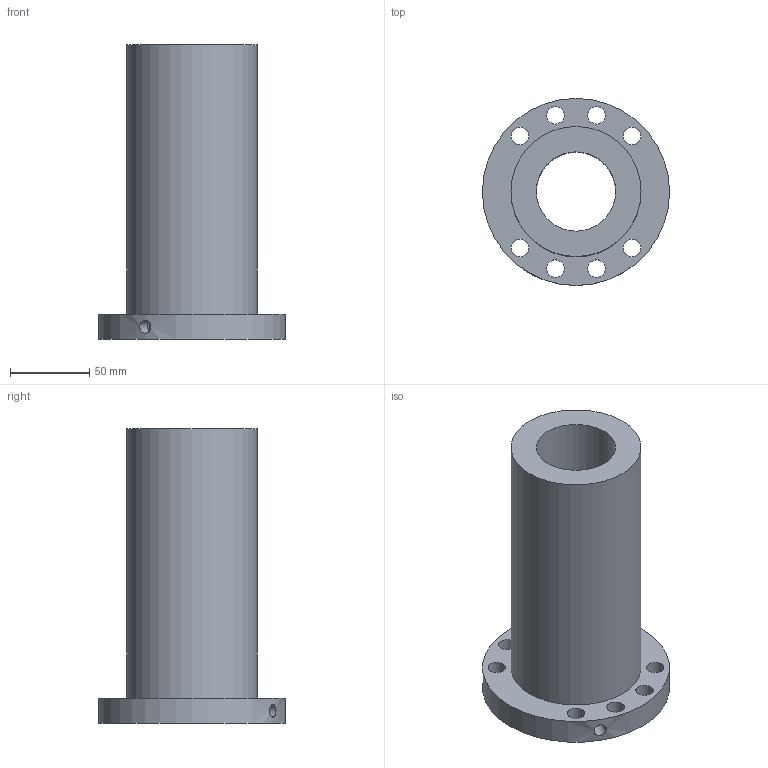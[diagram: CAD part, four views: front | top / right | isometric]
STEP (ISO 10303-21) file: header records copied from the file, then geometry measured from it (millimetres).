
FILE_DESCRIPTION(/* description */ (''),/* implementation_level */ '2;1');
FILE_NAME(/* name */ '50-12K5_635',/* time_stamp */ '2007-10-15T12:53:55+08:00',/* author */ (''),/* organization */ (''),/* preprocessor_version */ 'ST-DEVELOPER v11',/* originating_system */ 'UGS - NX 5.0',/* authorisation */ '');
FILE_SCHEMA (('CONFIG_CONTROL_DESIGN'));
Length unit declared in the file: millimetre
Products named in the file (1): 50-12K5_635
Bounding box: 118 x 118 x 186 mm (x, y, z)
Volume: 694192.5 mm3; surface area: 100436.7 mm2
Topology: 1 solids, 1 shells, 17 faces, 40 edges, 27 vertices
Faces by surface type: cylinder 13, plane 4
Full cylindrical faces by diameter (mm): 6 x1, 8 x1, 11 x8, 50 x1, 82 x1, 118 x1
Entity records: 668 total; most frequent: CARTESIAN_POINT 184, DIRECTION 84, FACE_BOUND 52, EDGE_LOOP 52, ORIENTED_EDGE 52, AXIS2_PLACEMENT_3D 42, VERTEX_POINT 26, EDGE_CURVE 26
